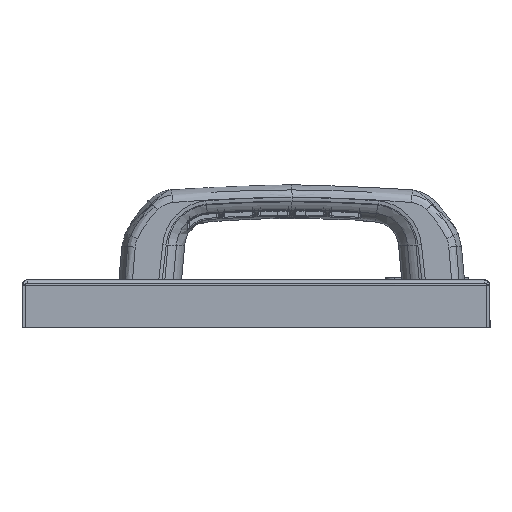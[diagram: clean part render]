
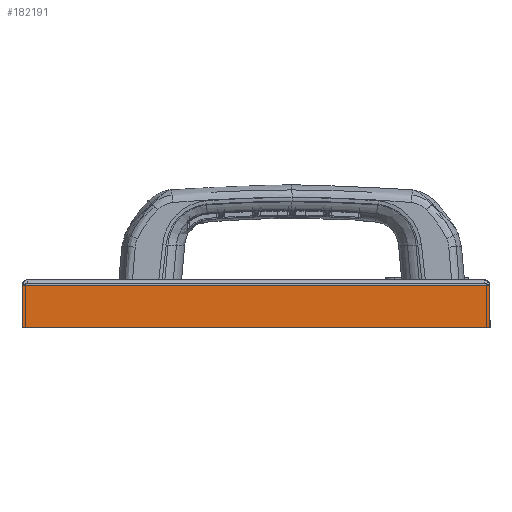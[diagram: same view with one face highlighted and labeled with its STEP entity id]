
A CAD part, left-side view. The second image highlights one B-rep face of the part: STEP entity #182191.
In plain terms, the highlighted planar face has unit normal (-1, 0, 0).
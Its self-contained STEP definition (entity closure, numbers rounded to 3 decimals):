
#177621=CARTESIAN_POINT(' ',(0.,197.,-2.3));
#177622=VERTEX_POINT(' ',#177621);
#178176=CARTESIAN_POINT(' ',(0.,197.,-2.3));
#178181=DIRECTION(' ',(0.,-1.,0.));
#178186=VECTOR(' ',#178181,1.);
#178191=LINE('',#178176,#178186);
#178196=CARTESIAN_POINT(' ',(0.,0.,-2.3));
#178197=VERTEX_POINT(' ',#178196);
#178201=EDGE_CURVE(' ',#177622,#178197,#178191,.T.);
#180791=CARTESIAN_POINT(' ',(0.,197.,-20.));
#180796=DIRECTION(' ',(0.,0.,1.));
#180801=VECTOR(' ',#180796,1.);
#180806=LINE('',#180791,#180801);
#180811=CARTESIAN_POINT(' ',(0.,197.,-20.));
#180812=VERTEX_POINT(' ',#180811);
#180816=EDGE_CURVE(' ',#180812,#177622,#180806,.T.);
#182081=DIRECTION(' ',(-1.,-0.,-0.));
#182086=CARTESIAN_POINT(' ',(0.,0.,-2.3));
#182091=DIRECTION(' ',(-0.,1.,0.));
#182096=AXIS2_PLACEMENT_3D(' ',#182086,#182081,#182091);
#182101=PLANE('NONE',#182096);
#182106=CARTESIAN_POINT(' ',(0.,0.,-20.));
#182111=DIRECTION(' ',(0.,0.,1.));
#182116=VECTOR(' ',#182111,1.);
#182121=LINE('',#182106,#182116);
#182126=CARTESIAN_POINT(' ',(0.,0.,-20.));
#182127=VERTEX_POINT(' ',#182126);
#182131=EDGE_CURVE(' ',#182127,#178197,#182121,.T.);
#182136=ORIENTED_EDGE(' ',*,*,#182131,.T.);
#182141=ORIENTED_EDGE(' ',*,*,#178201,.F.);
#182146=ORIENTED_EDGE(' ',*,*,#180816,.F.);
#182151=CARTESIAN_POINT(' ',(0.,197.,-20.));
#182156=DIRECTION(' ',(0.,-1.,0.));
#182161=VECTOR(' ',#182156,1.);
#182166=LINE('',#182151,#182161);
#182171=EDGE_CURVE(' ',#180812,#182127,#182166,.T.);
#182176=ORIENTED_EDGE(' ',*,*,#182171,.T.);
#182181=EDGE_LOOP(' ',(#182136,#182141,#182146,#182176));
#182186=FACE_OUTER_BOUND(' ',#182181,.T.);
#182191=ADVANCED_FACE('NONE',(#182186),#182101,.T.);
